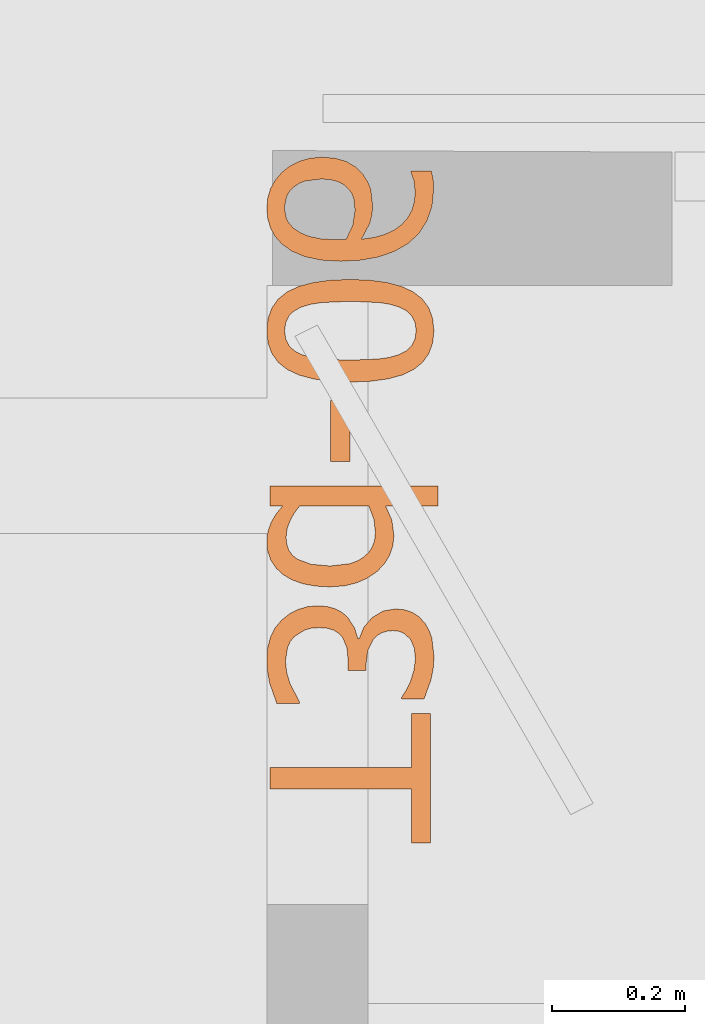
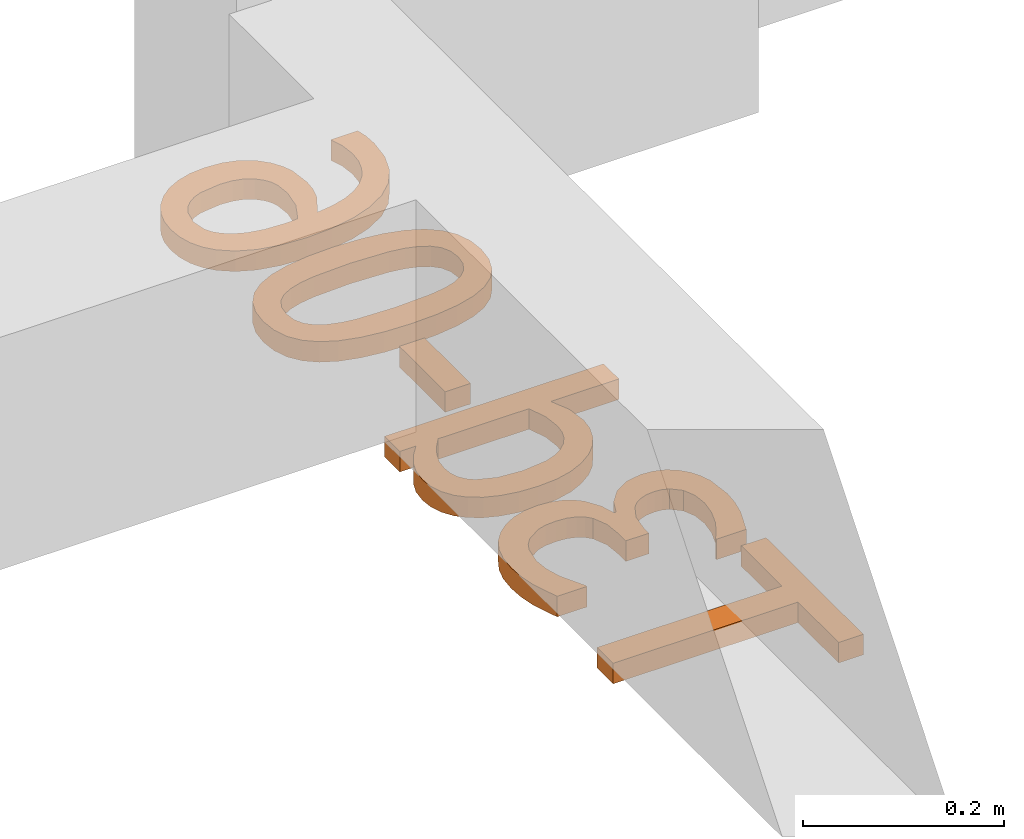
# Not in any storey, part 12 of 22: 1 proxy.
"""IFC4 model written with IfcOpenShell, lengths in metres."""

from ifc_helpers import new_model, si_unit, direction, origin_with_axes, place, context, subcontext, project, faceted_brep, element, save


model = new_model("IFC4")

# Units and contexts
model_context = context("Model", 3, precision=1e-05, world=origin_with_axes(), true_north=direction((1.0, 0.0)))
body_context = subcontext(model_context, "Body", "Model", "MODEL_VIEW")
ifc_project = project(units=[si_unit("LENGTHUNIT", "METRE"), si_unit("AREAUNIT", "SQUARE_METRE"), si_unit("VOLUMEUNIT", "CUBIC_METRE"), si_unit("MASSUNIT", "GRAM", prefix="KILO"), si_unit("TIMEUNIT", "SECOND"), si_unit("PLANEANGLEUNIT", "RADIAN"), si_unit("SOLIDANGLEUNIT", "STERADIAN")], contexts=[model_context])

# Proxy
proxy_placement = place(None, origin_with_axes())
element("IfcBuildingElementProxy", 1, at=proxy_placement, Name="Undefined", PredefinedType="NOTDEFINED", context=body_context, shape_type="AdvancedBrep", body=[
    faceted_brep([(145.344026, 25.357232, -0.05), (145.55699, 25.357232, -0.05), (145.55699, 25.276134, -0.05), (145.585537, 25.276134, -0.05), (145.585537, 25.470445, -0.05), (145.55699, 25.470445, -0.05), (145.55699, 25.389347, -0.05), (145.344026, 25.389347, -0.05), (145.562505, 25.553165, -0.05), (145.560396, 25.535648, -0.05), (145.554882, 25.518455, -0.05), (145.54807, 25.504912, -0.05), (145.541419, 25.494612, -0.05), (145.541419, 25.492666, -0.05), (145.575643, 25.492666, -0.05), (145.585942, 25.521294, -0.05), (145.589409, 25.538953, -0.05), (145.590565, 25.555761, -0.05), (145.58724, 25.584388, -0.05), (145.583003, 25.596046, -0.05), (145.576941, 25.606528, -0.05), (145.568344, 25.615915, -0.05), (145.558126, 25.622667, -0.05), (145.546164, 25.626742, -0.05), (145.532336, 25.6281, -0.05), (145.513603, 25.624816, -0.05), (145.497302, 25.614962, -0.05), (145.484975, 25.600527, -0.05), (145.478163, 25.583496, -0.05), (145.475892, 25.583496, -0.05), (145.470864, 25.599797, -0.05), (145.460321, 25.615936, -0.05), (145.452353, 25.622707, -0.05), (145.442398, 25.6281, -0.05), (145.430254, 25.631628, -0.05), (145.415717, 25.632804, -0.05), (145.400004, 25.631405, -0.05), (145.38563, 25.627208, -0.05), (145.372715, 25.620457, -0.05), (145.361381, 25.611394, -0.05), (145.35169, 25.599756, -0.05), (145.344675, 25.585929, -0.05), (145.340417, 25.569993, -0.05), (145.338998, 25.55203, -0.05), (145.340093, 25.533945, -0.05), (145.343377, 25.516022, -0.05), (145.35392, 25.486016, -0.05), (145.388144, 25.486016, -0.05), (145.388144, 25.488287, -0.05), (145.37387, 25.515698, -0.05), (145.368761, 25.532891, -0.05), (145.367058, 25.550084, -0.05), (145.370221, 25.569953, -0.05), (145.374377, 25.579097, -0.05), (145.38052, 25.586578, -0.05), (145.396253, 25.596472, -0.05), (145.405985, 25.599027, -0.05), (145.417988, 25.599878, -0.05), (145.42995, 25.598925, -0.05), (145.43956, 25.596066, -0.05), (145.447102, 25.591505, -0.05), (145.45286, 25.585443, -0.05), (145.459591, 25.569304, -0.05), (145.461457, 25.549111, -0.05), (145.461457, 25.535324, -0.05), (145.488381, 25.535324, -0.05), (145.488381, 25.546029, -0.05), (145.490976, 25.565878, -0.05), (145.498762, 25.581631, -0.05), (145.50454, 25.587627, -0.05), (145.511494, 25.59191, -0.05), (145.519624, 25.59448, -0.05), (145.52893, 25.595337, -0.05), (145.537385, 25.594445, -0.05), (145.544582, 25.591768, -0.05), (145.555044, 25.582685, -0.05), (145.560883, 25.569061, -0.05), (145.344026, 25.813167, -0.05), (145.344026, 25.782674, -0.05), (145.362517, 25.782674, -0.05), (145.352623, 25.770347, -0.05), (145.345486, 25.758182, -0.05), (145.340701, 25.74472, -0.05), (145.338998, 25.7285, -0.05), (145.340539, 25.714288, -0.05), (145.345161, 25.70117, -0.05), (145.352744, 25.689553, -0.05), (145.363165, 25.679841, -0.05), (145.376567, 25.671934, -0.05), (145.392766, 25.666054, -0.05), (145.411682, 25.662405, -0.05), (145.433234, 25.661188, -0.05), (145.455476, 25.662729, -0.05), (145.474513, 25.667352, -0.05), (145.490834, 25.674691, -0.05), (145.504925, 25.684383, -0.05), (145.515488, 25.695311, -0.05), (145.523497, 25.708307, -0.05), (145.528545, 25.722681, -0.05), (145.530228, 25.737745, -0.05), (145.527227, 25.761426, -0.05), (145.517901, 25.782674, -0.05), (145.596404, 25.782674, -0.05), (145.596404, 25.813167, -0.05), (145.388144, 25.782674, -0.05), (145.492598, 25.782674, -0.05), (145.500222, 25.762318, -0.05), (145.50233, 25.742773, -0.05), (145.50123, 25.731653, -0.05), (145.49793, 25.721809, -0.05), (145.492431, 25.713243, -0.05), (145.484732, 25.705955, -0.05), (145.474954, 25.700136, -0.05), (145.46322, 25.69598, -0.05), (145.433883, 25.692655, -0.05), (145.405681, 25.695209, -0.05), (145.384981, 25.702873, -0.05), (145.377565, 25.708753, -0.05), (145.372269, 25.716173, -0.05), (145.369091, 25.725135, -0.05), (145.368031, 25.735637, -0.05), (145.36939, 25.74768, -0.05), (145.373465, 25.759804, -0.05), (145.379851, 25.771604, -0.05), (145.435018, 25.941302, -0.05), (145.435018, 25.849823, -0.05), (145.464376, 25.849823, -0.05), (145.464376, 25.941302, -0.05), (145.464863, 26.123773, -0.05), (145.434507, 26.122592, -0.05), (145.408479, 26.119049, -0.05), (145.38678, 26.113144, -0.05), (145.36941, 26.104877, -0.05), (145.356105, 26.094147, -0.05), (145.346601, 26.080852, -0.05), (145.340899, 26.064992, -0.05), (145.338998, 26.046568, -0.05), (145.340934, 26.027946, -0.05), (145.346743, 26.011979, -0.05), (145.356424, 25.998669, -0.05), (145.369978, 25.988015, -0.05), (145.387505, 25.979854, -0.05), (145.409108, 25.974025, -0.05), (145.434785, 25.970528, -0.05), (145.464538, 25.969362, -0.05), (145.495026, 25.970543, -0.05), (145.521125, 25.974086, -0.05), (145.542834, 25.979991, -0.05), (145.560153, 25.988258, -0.05), (145.573387, 25.998988, -0.05), (145.58284, 26.012283, -0.05), (145.588512, 26.028143, -0.05), (145.590403, 26.046568, -0.05), (145.588446, 26.06519, -0.05), (145.582577, 26.081156, -0.05), (145.572794, 26.094466, -0.05), (145.559099, 26.105121, -0.05), (145.54147, 26.113281, -0.05), (145.519888, 26.11911, -0.05), (145.494352, 26.122608, -0.05), (145.391225, 26.082251, -0.05), (145.404809, 26.086265, -0.05), (145.421556, 26.088901, -0.05), (145.464863, 26.090847, -0.05), (145.508007, 26.088901, -0.05), (145.524794, 26.086225, -0.05), (145.5385, 26.082089, -0.05), (145.549347, 26.076311, -0.05), (145.557234, 26.068708, -0.05), (145.562039, 26.058915, -0.05), (145.56364, 26.046568, -0.05), (145.562039, 26.034302, -0.05), (145.557234, 26.024428, -0.05), (145.549266, 26.016663, -0.05), (145.538176, 26.010722, -0.05), (145.524227, 26.006627, -0.05), (145.507034, 26.004072, -0.05), (145.464538, 26.002288, -0.05), (145.422205, 26.003829, -0.05), (145.406066, 26.006282, -0.05), (145.391712, 26.01056, -0.05), (145.380662, 26.016257, -0.05), (145.372492, 26.023941, -0.05), (145.367443, 26.033937, -0.05), (145.36576, 26.046568, -0.05), (145.367362, 26.058834, -0.05), (145.372167, 26.068708, -0.05), (145.380135, 26.076432, -0.05), (145.422367, 26.307704, -0.05), (145.404444, 26.306164, -0.05), (145.387981, 26.301541, -0.05), (145.373546, 26.294323, -0.05), (145.361706, 26.284997, -0.05), (145.351872, 26.273481, -0.05), (145.344756, 26.260667, -0.05), (145.340438, 26.246516, -0.05), (145.338998, 26.230985, -0.05), (145.340377, 26.215354, -0.05), (145.344513, 26.201222, -0.05), (145.351366, 26.188632, -0.05), (145.360895, 26.177623, -0.05), (145.376242, 26.166492, -0.05), (145.39601, 26.158078, -0.05), (145.420522, 26.152786, -0.05), (145.450103, 26.151022, -0.05), (145.480048, 26.152644, -0.05), (145.506953, 26.15751, -0.05), (145.530694, 26.165742, -0.05), (145.551151, 26.177461, -0.05), (145.567472, 26.192504, -0.05), (145.579779, 26.21136, -0.05), (145.587504, 26.233743, -0.05), (145.590078, 26.25937, -0.05), (145.589267, 26.274454, -0.05), (145.586672, 26.286781, -0.05), (145.555693, 26.286781, -0.05), (145.555693, 26.285321, -0.05), (145.560153, 26.27267, -0.05), (145.562181, 26.25499, -0.05), (145.560908, 26.240631, -0.05), (145.557092, 26.227721, -0.05), (145.550731, 26.216261, -0.05), (145.541825, 26.20625, -0.05), (145.530415, 26.197912, -0.05), (145.516543, 26.19147, -0.05), (145.500206, 26.186924, -0.05), (145.481407, 26.184273, -0.05), (145.493896, 26.207953, -0.05), (145.49718, 26.220686, -0.05), (145.498275, 26.234554, -0.05), (145.495437, 26.259289, -0.05), (145.491159, 26.270136, -0.05), (145.484002, 26.281429, -0.05), (145.472608, 26.293026, -0.05), (145.458537, 26.301217, -0.05), (145.44179, 26.306082, -0.05), (145.42107, 26.274778, -0.05), (145.434775, 26.273805, -0.05), (145.446048, 26.270886, -0.05), (145.455374, 26.265777, -0.05), (145.463241, 26.258234, -0.05), (145.467539, 26.251483, -0.05), (145.470053, 26.24388, -0.05), (145.471675, 26.227417, -0.05), (145.468269, 26.205358, -0.05), (145.458375, 26.184273, -0.05), (145.451481, 26.183786, -0.05), (145.443128, 26.183624, -0.05), (145.420421, 26.184861, -0.05), (145.402579, 26.188571, -0.05), (145.389036, 26.194106, -0.05), (145.379223, 26.200817, -0.05), (145.372735, 26.207893, -0.05), (145.368518, 26.215171, -0.05), (145.365436, 26.231148, -0.05), (145.368923, 26.248766, -0.05), (145.373282, 26.256192, -0.05), (145.379385, 26.262695, -0.05), (145.387221, 26.267981, -0.05), (145.396781, 26.271758, -0.05), (145.55699, 25.357232, -0.075), (145.344026, 25.357232, -0.075), (145.344026, 25.389347, -0.075), (145.55699, 25.389347, -0.075), (145.55699, 25.470445, -0.075), (145.585537, 25.470445, -0.075), (145.585537, 25.276134, -0.075), (145.55699, 25.276134, -0.075), (145.560396, 25.535648, -0.075), (145.562505, 25.553165, -0.075), (145.560883, 25.569061, -0.075), (145.555044, 25.582685, -0.075), (145.544582, 25.591768, -0.075), (145.537385, 25.594445, -0.075), (145.52893, 25.595337, -0.075), (145.519624, 25.59448, -0.075), (145.511494, 25.59191, -0.075), (145.50454, 25.587627, -0.075), (145.498762, 25.581631, -0.075), (145.490976, 25.565878, -0.075), (145.488381, 25.546029, -0.075), (145.488381, 25.535324, -0.075), (145.461457, 25.535324, -0.075), (145.461457, 25.549111, -0.075), (145.459591, 25.569304, -0.075), (145.45286, 25.585443, -0.075), (145.447102, 25.591505, -0.075), (145.43956, 25.596066, -0.075), (145.42995, 25.598925, -0.075), (145.417988, 25.599878, -0.075), (145.405985, 25.599027, -0.075), (145.396253, 25.596472, -0.075), (145.38052, 25.586578, -0.075), (145.374377, 25.579097, -0.075), (145.370221, 25.569953, -0.075), (145.367058, 25.550084, -0.075), (145.368761, 25.532891, -0.075), (145.37387, 25.515698, -0.075), (145.388144, 25.488287, -0.075), (145.388144, 25.486016, -0.075), (145.35392, 25.486016, -0.075), (145.343377, 25.516022, -0.075), (145.340093, 25.533945, -0.075), (145.338998, 25.55203, -0.075), (145.340417, 25.569993, -0.075), (145.344675, 25.585929, -0.075), (145.35169, 25.599756, -0.075), (145.361381, 25.611394, -0.075), (145.372715, 25.620457, -0.075), (145.38563, 25.627208, -0.075), (145.400004, 25.631405, -0.075), (145.415717, 25.632804, -0.075), (145.430254, 25.631628, -0.075), (145.442398, 25.6281, -0.075), (145.452353, 25.622707, -0.075), (145.460321, 25.615936, -0.075), (145.470864, 25.599797, -0.075), (145.475892, 25.583496, -0.075), (145.478163, 25.583496, -0.075), (145.484975, 25.600527, -0.075), (145.497302, 25.614962, -0.075), (145.513603, 25.624816, -0.075), (145.532336, 25.6281, -0.075), (145.546164, 25.626742, -0.075), (145.558126, 25.622667, -0.075), (145.568344, 25.615915, -0.075), (145.576941, 25.606528, -0.075), (145.583003, 25.596046, -0.075), (145.58724, 25.584388, -0.075), (145.590565, 25.555761, -0.075), (145.589409, 25.538953, -0.075), (145.585942, 25.521294, -0.075), (145.575643, 25.492666, -0.075), (145.541419, 25.492666, -0.075), (145.541419, 25.494612, -0.075), (145.54807, 25.504912, -0.075), (145.554882, 25.518455, -0.075), (145.344026, 25.782674, -0.075), (145.344026, 25.813167, -0.075), (145.596404, 25.813167, -0.075), (145.596404, 25.782674, -0.075), (145.517901, 25.782674, -0.075), (145.527227, 25.761426, -0.075), (145.530228, 25.737745, -0.075), (145.528545, 25.722681, -0.075), (145.523497, 25.708307, -0.075), (145.515488, 25.695311, -0.075), (145.504925, 25.684383, -0.075), (145.490834, 25.674691, -0.075), (145.474513, 25.667352, -0.075), (145.455476, 25.662729, -0.075), (145.433234, 25.661188, -0.075), (145.411682, 25.662405, -0.075), (145.392766, 25.666054, -0.075), (145.376567, 25.671934, -0.075), (145.363165, 25.679841, -0.075), (145.352744, 25.689553, -0.075), (145.345161, 25.70117, -0.075), (145.340539, 25.714288, -0.075), (145.338998, 25.7285, -0.075), (145.340701, 25.74472, -0.075), (145.345486, 25.758182, -0.075), (145.352623, 25.770347, -0.075), (145.362517, 25.782674, -0.075), (145.492598, 25.782674, -0.075), (145.388144, 25.782674, -0.075), (145.379851, 25.771604, -0.075), (145.373465, 25.759804, -0.075), (145.36939, 25.74768, -0.075), (145.368031, 25.735637, -0.075), (145.369091, 25.725135, -0.075), (145.372269, 25.716173, -0.075), (145.377565, 25.708753, -0.075), (145.384981, 25.702873, -0.075), (145.405681, 25.695209, -0.075), (145.433883, 25.692655, -0.075), (145.46322, 25.69598, -0.075), (145.474954, 25.700136, -0.075), (145.484732, 25.705955, -0.075), (145.492431, 25.713243, -0.075), (145.49793, 25.721809, -0.075), (145.50123, 25.731653, -0.075), (145.50233, 25.742773, -0.075), (145.500222, 25.762318, -0.075), (145.435018, 25.849823, -0.075), (145.435018, 25.941302, -0.075), (145.464376, 25.941302, -0.075), (145.464376, 25.849823, -0.075), (145.434507, 26.122592, -0.075), (145.464863, 26.123773, -0.075), (145.494352, 26.122608, -0.075), (145.519888, 26.11911, -0.075), (145.54147, 26.113281, -0.075), (145.559099, 26.105121, -0.075), (145.572794, 26.094466, -0.075), (145.582577, 26.081156, -0.075), (145.588446, 26.06519, -0.075), (145.590403, 26.046568, -0.075), (145.588512, 26.028143, -0.075), (145.58284, 26.012283, -0.075), (145.573387, 25.998988, -0.075), (145.560153, 25.988258, -0.075), (145.542834, 25.979991, -0.075), (145.521125, 25.974086, -0.075), (145.495026, 25.970543, -0.075), (145.464538, 25.969362, -0.075), (145.434785, 25.970528, -0.075), (145.409108, 25.974025, -0.075), (145.387505, 25.979854, -0.075), (145.369978, 25.988015, -0.075), (145.356424, 25.998669, -0.075), (145.346743, 26.011979, -0.075), (145.340934, 26.027946, -0.075), (145.338998, 26.046568, -0.075), (145.340899, 26.064992, -0.075), (145.346601, 26.080852, -0.075), (145.356105, 26.094147, -0.075), (145.36941, 26.104877, -0.075), (145.38678, 26.113144, -0.075), (145.408479, 26.119049, -0.075), (145.404809, 26.086265, -0.075), (145.391225, 26.082251, -0.075), (145.380135, 26.076432, -0.075), (145.372167, 26.068708, -0.075), (145.367362, 26.058834, -0.075), (145.36576, 26.046568, -0.075), (145.367443, 26.033937, -0.075), (145.372492, 26.023941, -0.075), (145.380662, 26.016257, -0.075), (145.391712, 26.01056, -0.075), (145.406066, 26.006282, -0.075), (145.422205, 26.003829, -0.075), (145.464538, 26.002288, -0.075), (145.507034, 26.004072, -0.075), (145.524227, 26.006627, -0.075), (145.538176, 26.010722, -0.075), (145.549266, 26.016663, -0.075), (145.557234, 26.024428, -0.075), (145.562039, 26.034302, -0.075), (145.56364, 26.046568, -0.075), (145.562039, 26.058915, -0.075), (145.557234, 26.068708, -0.075), (145.549347, 26.076311, -0.075), (145.5385, 26.082089, -0.075), (145.524794, 26.086225, -0.075), (145.508007, 26.088901, -0.075), (145.464863, 26.090847, -0.075), (145.421556, 26.088901, -0.075), (145.404444, 26.306164, -0.075), (145.422367, 26.307704, -0.075), (145.44179, 26.306082, -0.075), (145.458537, 26.301217, -0.075), (145.472608, 26.293026, -0.075), (145.484002, 26.281429, -0.075), (145.491159, 26.270136, -0.075), (145.495437, 26.259289, -0.075), (145.498275, 26.234554, -0.075), (145.49718, 26.220686, -0.075), (145.493896, 26.207953, -0.075), (145.481407, 26.184273, -0.075), (145.500206, 26.186924, -0.075), (145.516543, 26.19147, -0.075), (145.530415, 26.197912, -0.075), (145.541825, 26.20625, -0.075), (145.550731, 26.216261, -0.075), (145.557092, 26.227721, -0.075), (145.560908, 26.240631, -0.075), (145.562181, 26.25499, -0.075), (145.560153, 26.27267, -0.075), (145.555693, 26.285321, -0.075), (145.555693, 26.286781, -0.075), (145.586672, 26.286781, -0.075), (145.589267, 26.274454, -0.075), (145.590078, 26.25937, -0.075), (145.587504, 26.233743, -0.075), (145.579779, 26.21136, -0.075), (145.567472, 26.192504, -0.075), (145.551151, 26.177461, -0.075), (145.530694, 26.165742, -0.075), (145.506953, 26.15751, -0.075), (145.480048, 26.152644, -0.075), (145.450103, 26.151022, -0.075), (145.420522, 26.152786, -0.075), (145.39601, 26.158078, -0.075), (145.376242, 26.166492, -0.075), (145.360895, 26.177623, -0.075), (145.351366, 26.188632, -0.075), (145.344513, 26.201222, -0.075), (145.340377, 26.215354, -0.075), (145.338998, 26.230985, -0.075), (145.340438, 26.246516, -0.075), (145.344756, 26.260667, -0.075), (145.351872, 26.273481, -0.075), (145.361706, 26.284997, -0.075), (145.373546, 26.294323, -0.075), (145.387981, 26.301541, -0.075), (145.434775, 26.273805, -0.075), (145.42107, 26.274778, -0.075), (145.396781, 26.271758, -0.075), (145.387221, 26.267981, -0.075), (145.379385, 26.262695, -0.075), (145.373282, 26.256192, -0.075), (145.368923, 26.248766, -0.075), (145.365436, 26.231148, -0.075), (145.368518, 26.215171, -0.075), (145.372735, 26.207893, -0.075), (145.379223, 26.200817, -0.075), (145.389036, 26.194106, -0.075), (145.402579, 26.188571, -0.075), (145.420421, 26.184861, -0.075), (145.443128, 26.183624, -0.075), (145.451481, 26.183786, -0.075), (145.458375, 26.184273, -0.075), (145.468269, 26.205358, -0.075), (145.471675, 26.227417, -0.075), (145.470053, 26.24388, -0.075), (145.467539, 26.251483, -0.075), (145.463241, 26.258234, -0.075), (145.455374, 26.265777, -0.075), (145.446048, 26.270886, -0.075)], [[[0, 1, 2, 3, 4, 5, 6, 7]], [[8, 9, 10, 11, 12, 13, 14, 15, 16, 17, 18, 19, 20, 21, 22, 23, 24, 25, 26, 27, 28, 29, 30, 31, 32, 33, 34, 35, 36, 37, 38, 39, 40, 41, 42, 43, 44, 45, 46, 47, 48, 49, 50, 51, 52, 53, 54, 55, 56, 57, 58, 59, 60, 61, 62, 63, 64, 65, 66, 67, 68, 69, 70, 71, 72, 73, 74, 75, 76]], [[77, 78, 79, 80, 81, 82, 83, 84, 85, 86, 87, 88, 89, 90, 91, 92, 93, 94, 95, 96, 97, 98, 99, 100, 101, 102, 103], [104, 105, 106, 107, 108, 109, 110, 111, 112, 113, 114, 115, 116, 117, 118, 119, 120, 121, 122, 123]], [[124, 125, 126, 127]], [[128, 129, 130, 131, 132, 133, 134, 135, 136, 137, 138, 139, 140, 141, 142, 143, 144, 145, 146, 147, 148, 149, 150, 151, 152, 153, 154, 155, 156, 157, 158, 159], [160, 161, 162, 163, 164, 165, 166, 167, 168, 169, 170, 171, 172, 173, 174, 175, 176, 177, 178, 179, 180, 181, 182, 183, 184, 185, 186, 187]], [[188, 189, 190, 191, 192, 193, 194, 195, 196, 197, 198, 199, 200, 201, 202, 203, 204, 205, 206, 207, 208, 209, 210, 211, 212, 213, 214, 215, 216, 217, 218, 219, 220, 221, 222, 223, 224, 225, 226, 227, 228, 229, 230, 231, 232, 233, 234, 235], [236, 237, 238, 239, 240, 241, 242, 243, 244, 245, 246, 247, 248, 249, 250, 251, 252, 253, 254, 255, 256, 257, 258, 259]], [[260, 261, 262, 263, 264, 265, 266, 267]], [[1, 0, 261, 260]], [[2, 1, 260, 267]], [[3, 2, 267, 266]], [[4, 3, 266, 265]], [[5, 4, 265, 264]], [[6, 5, 264, 263]], [[7, 6, 263, 262]], [[0, 7, 262, 261]], [[268, 269, 270, 271, 272, 273, 274, 275, 276, 277, 278, 279, 280, 281, 282, 283, 284, 285, 286, 287, 288, 289, 290, 291, 292, 293, 294, 295, 296, 297, 298, 299, 300, 301, 302, 303, 304, 305, 306, 307, 308, 309, 310, 311, 312, 313, 314, 315, 316, 317, 318, 319, 320, 321, 322, 323, 324, 325, 326, 327, 328, 329, 330, 331, 332, 333, 334, 335, 336]], [[9, 8, 269, 268]], [[10, 9, 268, 336]], [[11, 10, 336, 335]], [[12, 11, 335, 334]], [[13, 12, 334, 333]], [[14, 13, 333, 332]], [[15, 14, 332, 331]], [[16, 15, 331, 330]], [[17, 16, 330, 329]], [[18, 17, 329, 328]], [[19, 18, 328, 327]], [[20, 19, 327, 326]], [[21, 20, 326, 325]], [[22, 21, 325, 324]], [[23, 22, 324, 323]], [[24, 23, 323, 322]], [[25, 24, 322, 321]], [[26, 25, 321, 320]], [[27, 26, 320, 319]], [[28, 27, 319, 318]], [[29, 28, 318, 317]], [[30, 29, 317, 316]], [[31, 30, 316, 315]], [[32, 31, 315, 314]], [[33, 32, 314, 313]], [[34, 33, 313, 312]], [[35, 34, 312, 311]], [[36, 35, 311, 310]], [[37, 36, 310, 309]], [[38, 37, 309, 308]], [[39, 38, 308, 307]], [[40, 39, 307, 306]], [[41, 40, 306, 305]], [[42, 41, 305, 304]], [[43, 42, 304, 303]], [[44, 43, 303, 302]], [[45, 44, 302, 301]], [[46, 45, 301, 300]], [[47, 46, 300, 299]], [[48, 47, 299, 298]], [[49, 48, 298, 297]], [[50, 49, 297, 296]], [[51, 50, 296, 295]], [[52, 51, 295, 294]], [[53, 52, 294, 293]], [[54, 53, 293, 292]], [[55, 54, 292, 291]], [[56, 55, 291, 290]], [[57, 56, 290, 289]], [[58, 57, 289, 288]], [[59, 58, 288, 287]], [[60, 59, 287, 286]], [[61, 60, 286, 285]], [[62, 61, 285, 284]], [[63, 62, 284, 283]], [[64, 63, 283, 282]], [[65, 64, 282, 281]], [[66, 65, 281, 280]], [[67, 66, 280, 279]], [[68, 67, 279, 278]], [[69, 68, 278, 277]], [[70, 69, 277, 276]], [[71, 70, 276, 275]], [[72, 71, 275, 274]], [[73, 72, 274, 273]], [[74, 73, 273, 272]], [[75, 74, 272, 271]], [[76, 75, 271, 270]], [[8, 76, 270, 269]], [[337, 338, 339, 340, 341, 342, 343, 344, 345, 346, 347, 348, 349, 350, 351, 352, 353, 354, 355, 356, 357, 358, 359, 360, 361, 362, 363], [364, 365, 366, 367, 368, 369, 370, 371, 372, 373, 374, 375, 376, 377, 378, 379, 380, 381, 382, 383]], [[78, 77, 338, 337]], [[79, 78, 337, 363]], [[80, 79, 363, 362]], [[81, 80, 362, 361]], [[82, 81, 361, 360]], [[83, 82, 360, 359]], [[84, 83, 359, 358]], [[85, 84, 358, 357]], [[86, 85, 357, 356]], [[87, 86, 356, 355]], [[88, 87, 355, 354]], [[89, 88, 354, 353]], [[90, 89, 353, 352]], [[91, 90, 352, 351]], [[92, 91, 351, 350]], [[93, 92, 350, 349]], [[94, 93, 349, 348]], [[95, 94, 348, 347]], [[96, 95, 347, 346]], [[97, 96, 346, 345]], [[98, 97, 345, 344]], [[99, 98, 344, 343]], [[100, 99, 343, 342]], [[101, 100, 342, 341]], [[102, 101, 341, 340]], [[103, 102, 340, 339]], [[77, 103, 339, 338]], [[105, 104, 365, 364]], [[106, 105, 364, 383]], [[107, 106, 383, 382]], [[108, 107, 382, 381]], [[109, 108, 381, 380]], [[110, 109, 380, 379]], [[111, 110, 379, 378]], [[112, 111, 378, 377]], [[113, 112, 377, 376]], [[114, 113, 376, 375]], [[115, 114, 375, 374]], [[116, 115, 374, 373]], [[117, 116, 373, 372]], [[118, 117, 372, 371]], [[119, 118, 371, 370]], [[120, 119, 370, 369]], [[121, 120, 369, 368]], [[122, 121, 368, 367]], [[123, 122, 367, 366]], [[104, 123, 366, 365]], [[384, 385, 386, 387]], [[125, 124, 385, 384]], [[126, 125, 384, 387]], [[127, 126, 387, 386]], [[124, 127, 386, 385]], [[388, 389, 390, 391, 392, 393, 394, 395, 396, 397, 398, 399, 400, 401, 402, 403, 404, 405, 406, 407, 408, 409, 410, 411, 412, 413, 414, 415, 416, 417, 418, 419], [420, 421, 422, 423, 424, 425, 426, 427, 428, 429, 430, 431, 432, 433, 434, 435, 436, 437, 438, 439, 440, 441, 442, 443, 444, 445, 446, 447]], [[129, 128, 389, 388]], [[130, 129, 388, 419]], [[131, 130, 419, 418]], [[132, 131, 418, 417]], [[133, 132, 417, 416]], [[134, 133, 416, 415]], [[135, 134, 415, 414]], [[136, 135, 414, 413]], [[137, 136, 413, 412]], [[138, 137, 412, 411]], [[139, 138, 411, 410]], [[140, 139, 410, 409]], [[141, 140, 409, 408]], [[142, 141, 408, 407]], [[143, 142, 407, 406]], [[144, 143, 406, 405]], [[145, 144, 405, 404]], [[146, 145, 404, 403]], [[147, 146, 403, 402]], [[148, 147, 402, 401]], [[149, 148, 401, 400]], [[150, 149, 400, 399]], [[151, 150, 399, 398]], [[152, 151, 398, 397]], [[153, 152, 397, 396]], [[154, 153, 396, 395]], [[155, 154, 395, 394]], [[156, 155, 394, 393]], [[157, 156, 393, 392]], [[158, 157, 392, 391]], [[159, 158, 391, 390]], [[128, 159, 390, 389]], [[161, 160, 421, 420]], [[162, 161, 420, 447]], [[163, 162, 447, 446]], [[164, 163, 446, 445]], [[165, 164, 445, 444]], [[166, 165, 444, 443]], [[167, 166, 443, 442]], [[168, 167, 442, 441]], [[169, 168, 441, 440]], [[170, 169, 440, 439]], [[171, 170, 439, 438]], [[172, 171, 438, 437]], [[173, 172, 437, 436]], [[174, 173, 436, 435]], [[175, 174, 435, 434]], [[176, 175, 434, 433]], [[177, 176, 433, 432]], [[178, 177, 432, 431]], [[179, 178, 431, 430]], [[180, 179, 430, 429]], [[181, 180, 429, 428]], [[182, 181, 428, 427]], [[183, 182, 427, 426]], [[184, 183, 426, 425]], [[185, 184, 425, 424]], [[186, 185, 424, 423]], [[187, 186, 423, 422]], [[160, 187, 422, 421]], [[448, 449, 450, 451, 452, 453, 454, 455, 456, 457, 458, 459, 460, 461, 462, 463, 464, 465, 466, 467, 468, 469, 470, 471, 472, 473, 474, 475, 476, 477, 478, 479, 480, 481, 482, 483, 484, 485, 486, 487, 488, 489, 490, 491, 492, 493, 494, 495], [496, 497, 498, 499, 500, 501, 502, 503, 504, 505, 506, 507, 508, 509, 510, 511, 512, 513, 514, 515, 516, 517, 518, 519]], [[189, 188, 449, 448]], [[190, 189, 448, 495]], [[191, 190, 495, 494]], [[192, 191, 494, 493]], [[193, 192, 493, 492]], [[194, 193, 492, 491]], [[195, 194, 491, 490]], [[196, 195, 490, 489]], [[197, 196, 489, 488]], [[198, 197, 488, 487]], [[199, 198, 487, 486]], [[200, 199, 486, 485]], [[201, 200, 485, 484]], [[202, 201, 484, 483]], [[203, 202, 483, 482]], [[204, 203, 482, 481]], [[205, 204, 481, 480]], [[206, 205, 480, 479]], [[207, 206, 479, 478]], [[208, 207, 478, 477]], [[209, 208, 477, 476]], [[210, 209, 476, 475]], [[211, 210, 475, 474]], [[212, 211, 474, 473]], [[213, 212, 473, 472]], [[214, 213, 472, 471]], [[215, 214, 471, 470]], [[216, 215, 470, 469]], [[217, 216, 469, 468]], [[218, 217, 468, 467]], [[219, 218, 467, 466]], [[220, 219, 466, 465]], [[221, 220, 465, 464]], [[222, 221, 464, 463]], [[223, 222, 463, 462]], [[224, 223, 462, 461]], [[225, 224, 461, 460]], [[226, 225, 460, 459]], [[227, 226, 459, 458]], [[228, 227, 458, 457]], [[229, 228, 457, 456]], [[230, 229, 456, 455]], [[231, 230, 455, 454]], [[232, 231, 454, 453]], [[233, 232, 453, 452]], [[234, 233, 452, 451]], [[235, 234, 451, 450]], [[188, 235, 450, 449]], [[237, 236, 497, 496]], [[238, 237, 496, 519]], [[239, 238, 519, 518]], [[240, 239, 518, 517]], [[241, 240, 517, 516]], [[242, 241, 516, 515]], [[243, 242, 515, 514]], [[244, 243, 514, 513]], [[245, 244, 513, 512]], [[246, 245, 512, 511]], [[247, 246, 511, 510]], [[248, 247, 510, 509]], [[249, 248, 509, 508]], [[250, 249, 508, 507]], [[251, 250, 507, 506]], [[252, 251, 506, 505]], [[253, 252, 505, 504]], [[254, 253, 504, 503]], [[255, 254, 503, 502]], [[256, 255, 502, 501]], [[257, 256, 501, 500]], [[258, 257, 500, 499]], [[259, 258, 499, 498]], [[236, 259, 498, 497]]]),
])

save(model, "model.ifc")
